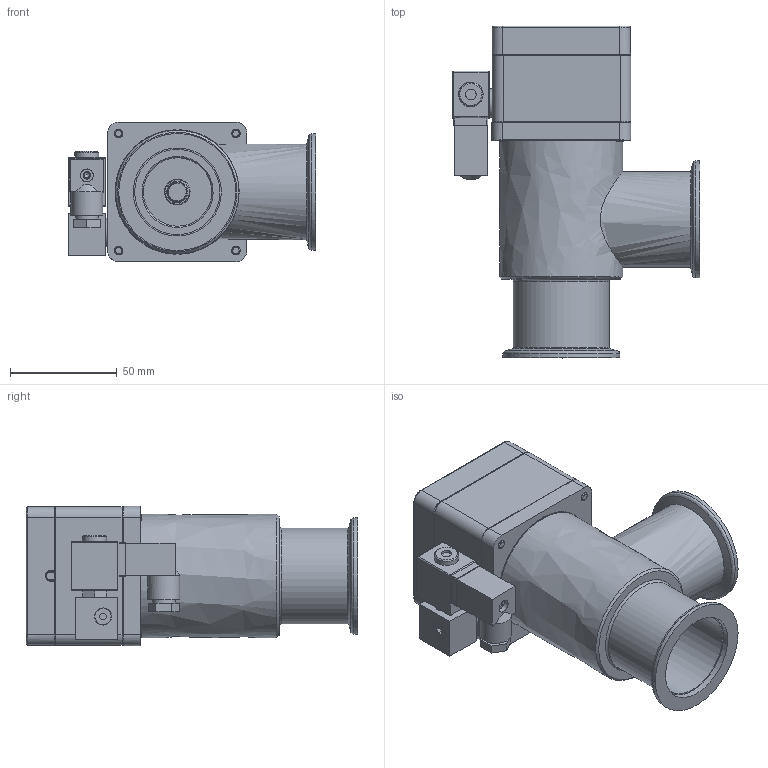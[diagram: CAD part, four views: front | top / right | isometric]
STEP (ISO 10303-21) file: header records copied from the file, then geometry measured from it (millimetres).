
FILE_DESCRIPTION((''),'2;1');
FILE_NAME('C:\TEMP\IDEAS\310465.stp','2006-09-19T16:04:55',('User'),( 'SDRC'),'I-DEAS Master Series 9','UNIX','Yes');
FILE_SCHEMA(('CONFIG_CONTROL_DESIGN'));
Length unit declared in the file: millimetre
Assembly tree (17 placements, depth 0):
Bounding box: 116.2 x 155.7 x 65.4 mm (x, y, z)
Volume: 158471.2 mm3; surface area: 119403.9 mm2
Topology: 13 solids, 16 shells, 597 faces, 1468 edges, 952 vertices
Faces by surface type: bspline 597
Entity records: 19715 total; most frequent: CARTESIAN_POINT 9686, ORIENTED_EDGE 2686, EDGE_CURVE 1343, VERTEX_POINT 871, EDGE_LOOP 620, FACE_OUTER_BOUND 540, ADVANCED_FACE 540, B_SPLINE_CURVE_WITH_KNOTS 523
